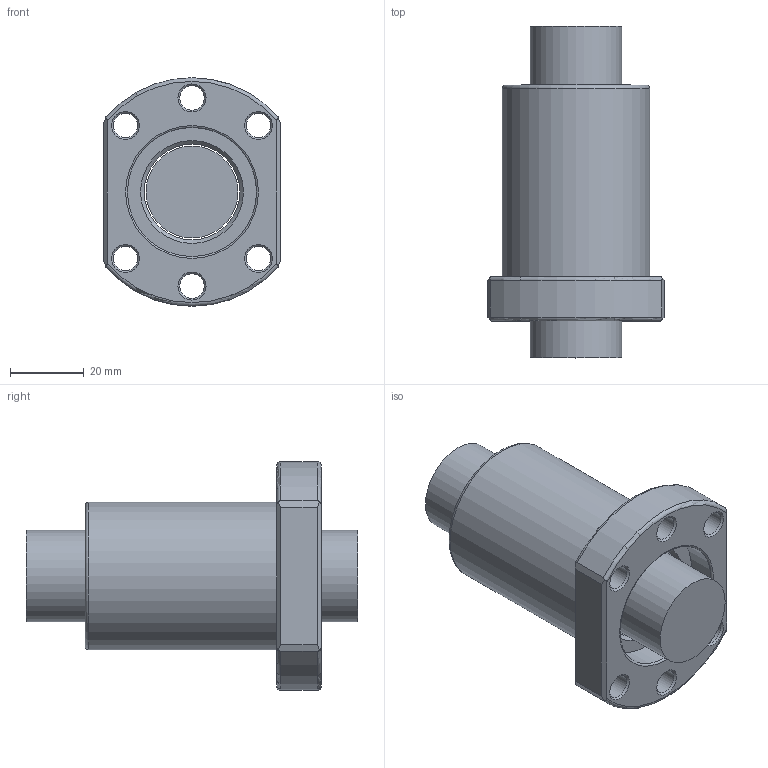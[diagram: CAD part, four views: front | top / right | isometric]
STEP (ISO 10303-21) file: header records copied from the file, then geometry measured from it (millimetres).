
FILE_DESCRIPTION(/* description */ (''),/* implementation_level */ '2;1');
FILE_NAME(/* name */ '2510.prt.step',/* time_stamp */ '2008-12-05T09:30:24+08:00',/* author */ (''),/* organization */ (''),/* preprocessor_version */ 'ST-DEVELOPER v11',/* originating_system */ 'SIEMENS UGS NX 6.0',/* authorisation */ '');
FILE_SCHEMA (('AUTOMOTIVE_DESIGN { 1 0 10303 214 1 1 1 1 }'));
Length unit declared in the file: millimetre
Products named in the file (1): 2510
Bounding box: 48 x 90 x 62 mm (x, y, z)
Volume: 97673.5 mm3; surface area: 27346.8 mm2
Topology: 2 solids, 2 shells, 51 faces, 118 edges, 74 vertices
Faces by surface type: plane 17, cone 14, cylinder 13, torus 7
Full cylindrical faces by diameter (mm): 6.6 x6, 24.95 x1, 25.9 x1, 35 x2, 40 x1
Entity records: 1558 total; most frequent: CARTESIAN_POINT 462, DIRECTION 222, ORIENTED_EDGE 174, AXIS2_PLACEMENT_3D 99, EDGE_LOOP 96, EDGE_CURVE 87, FACE_BOUND 78, VERTEX_POINT 71
